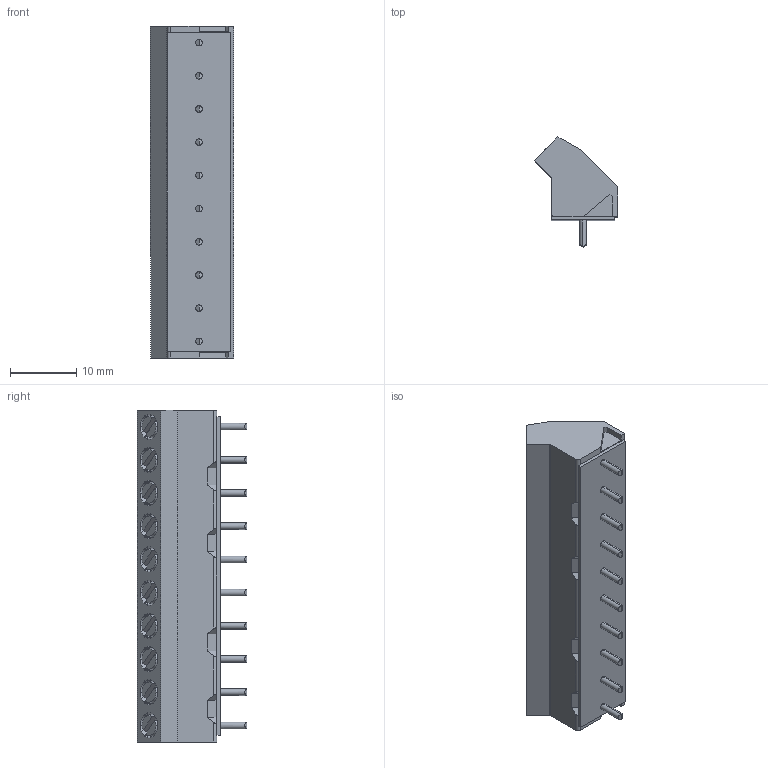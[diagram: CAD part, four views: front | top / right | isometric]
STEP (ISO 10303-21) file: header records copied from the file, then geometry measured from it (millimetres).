
FILE_DESCRIPTION (( 'STEP AP214' ), '1' );
FILE_NAME ('974-BP-DS-10.STEP', '2009-02-20T06:03:55', ( ' ' ), ( '' ), 'SwSTEP 2.0', 'SolidWorks 2007', '' );
FILE_SCHEMA (( 'AUTOMOTIVE_DESIGN' ));
Length unit declared in the file: millimetre
Products named in the file (1): 974-BP-DS-10
Bounding box: 12.5 x 16.5 x 50 mm (x, y, z)
Volume: 4369.1 mm3; surface area: 4495.3 mm2
Topology: 10 solids, 10 shells, 1105 faces, 3123 edges, 2018 vertices
Faces by surface type: plane 719, cylinder 206, cone 100, bspline 80
Entity records: 38723 total; most frequent: CARTESIAN_POINT 10831, ORIENTED_EDGE 6246, DIRECTION 5271, EDGE_CURVE 3123, VERTEX_POINT 2018, VECTOR 1971, LINE 1971, AXIS2_PLACEMENT_3D 1650
